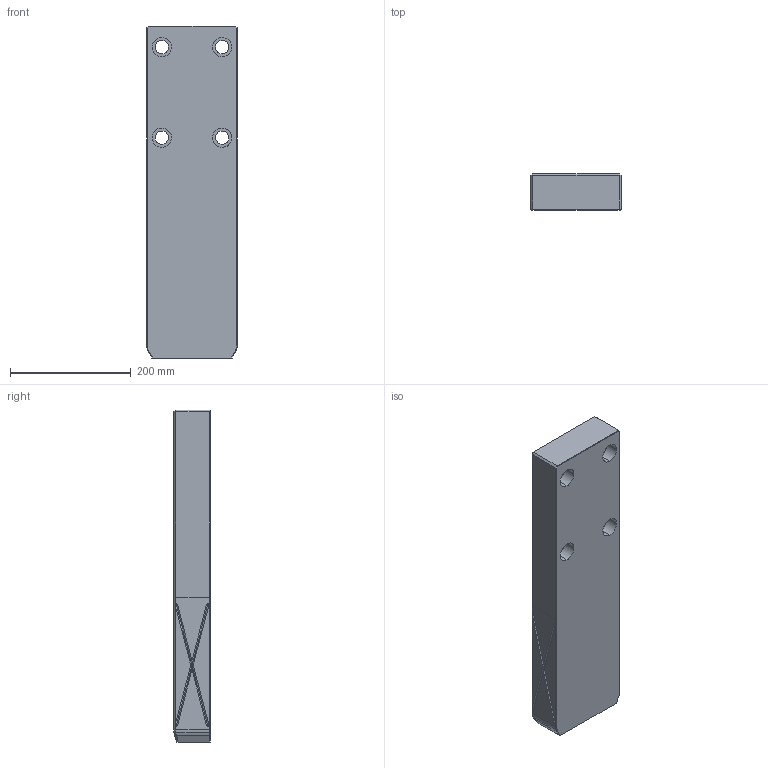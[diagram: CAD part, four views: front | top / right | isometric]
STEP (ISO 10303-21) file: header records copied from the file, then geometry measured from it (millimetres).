
FILE_DESCRIPTION(('CATIA V5 STEP Exchange'),'2;1');
FILE_NAME('D:\temp\color-modify-100929\GWB_6644-6654_R00\3d_gwb150-240-550_6653_r00.stp','2010-09-29T05:18:49+00:00',('none'),('none'),'CATIA Version 5 Release 18 SP 5 (IN-10)','CATIA V5 STEP AP214','none');
FILE_SCHEMA(('AUTOMOTIVE_DESIGN { 1 0 10303 214 1 1 1 1 }'));
Length unit declared in the file: millimetre
Products named in the file (1): GWB150-240-550
Bounding box: 150 x 60 x 550 mm (x, y, z)
Volume: 4790827.6 mm3; surface area: 264622 mm2
Topology: 1 solids, 1 shells, 139 faces, 362 edges, 207 vertices
Faces by surface type: cylinder 66, plane 39, revolution 24, bspline 6, cone 4
Entity records: 5224 total; most frequent: CARTESIAN_POINT 2267, ORIENTED_EDGE 676, DIRECTION 435, EDGE_CURVE 338, VERTEX_POINT 207, B_SPLINE_CURVE_WITH_KNOTS 169, EDGE_LOOP 153, VECTOR 152
